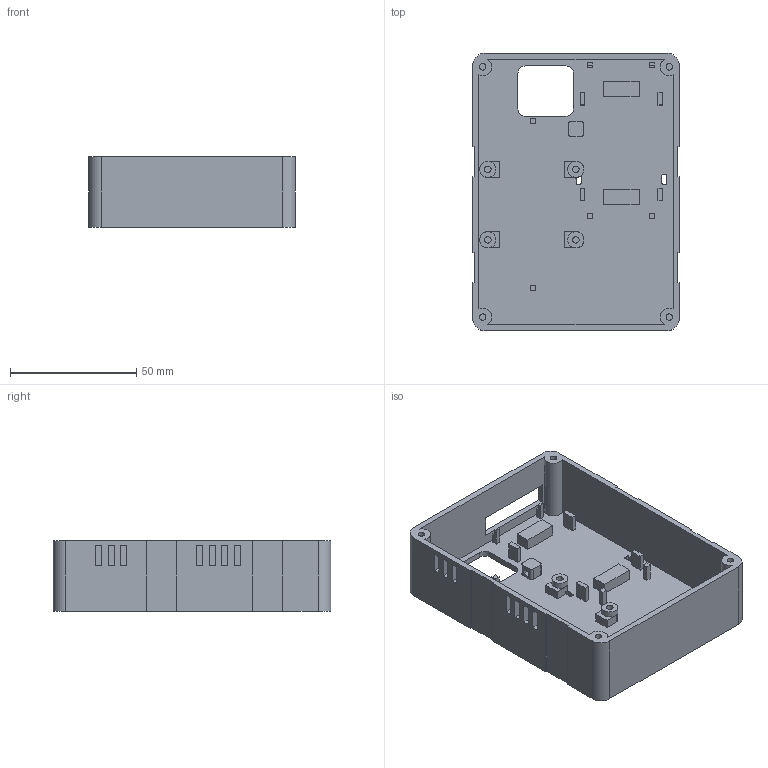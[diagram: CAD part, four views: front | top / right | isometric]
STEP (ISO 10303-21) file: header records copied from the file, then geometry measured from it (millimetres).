
FILE_DESCRIPTION(('Open CASCADE Model'),'2;1');
FILE_NAME('Open CASCADE Shape Model','2026-09-07T22:19:20',('Author'),( 'Open CASCADE'),'Open CASCADE STEP processor 7.9','build123d', 'Unknown');
FILE_SCHEMA(('AUTOMOTIVE_DESIGN { 1 0 10303 214 1 1 1 1 }'));
Length unit declared in the file: millimetre
Products named in the file (1): COMPOUND
Bounding box: 82 x 110 x 28 mm (x, y, z)
Volume: 46167.6 mm3; surface area: 39324.6 mm2
Topology: 1 solids, 1 shells, 229 faces, 595 edges, 394 vertices
Faces by surface type: plane 193, cylinder 36
Full cylindrical faces by diameter (mm): 2.6 x8, 6.4 x4
Entity records: 14533 total; most frequent: CARTESIAN_POINT 2993, DIRECTION 1968, LINE 1275, VECTOR 1275, ORIENTED_EDGE 1190, PCURVE 1190, DEFINITIONAL_REPRESENTATION 1190, EDGE_CURVE 595
